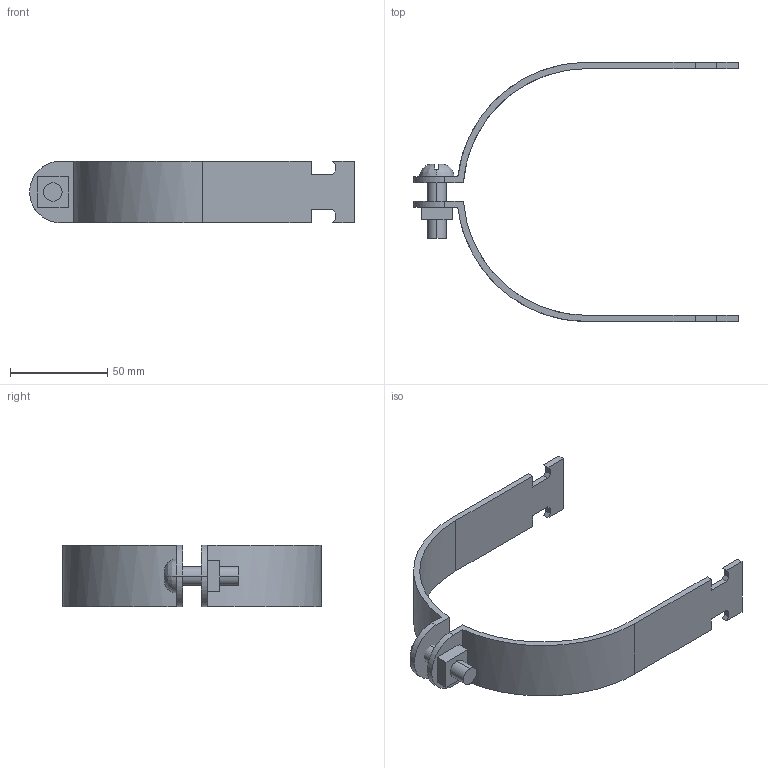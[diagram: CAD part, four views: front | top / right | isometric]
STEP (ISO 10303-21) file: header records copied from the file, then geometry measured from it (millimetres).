
FILE_DESCRIPTION(('TurboCAD Mac Pro'),'Build 980');
FILE_NAME('P2062.stp',' ',(''),(''),'ACIS Interop','IMSI','TurboCAD Mac Pro BY IMSI, INCORPORATED');
FILE_SCHEMA(('automotive_design'));
Length unit declared in the file: inch
Products named in the file (5): 1; 2; 3; 4; 5
Bounding box: 167 x 133.21 x 31.75 mm (x, y, z)
Volume: 42607.3 mm3; surface area: 29692.3 mm2
Topology: 4 solids, 4 shells, 71 faces, 186 edges, 124 vertices
Faces by surface type: plane 51, bspline 20
Entity records: 3435 total; most frequent: CARTESIAN_POINT 1034, ORIENTED_EDGE 372, DIRECTION 258, EDGE_CURVE 186, LINE 138, VECTOR 138, VERTEX_POINT 124, STYLED_ITEM 87
